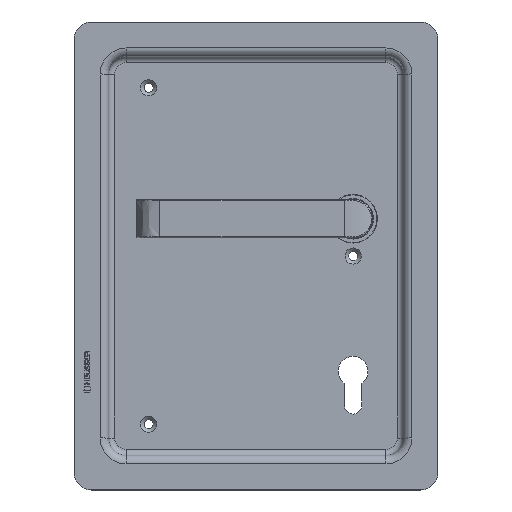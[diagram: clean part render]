
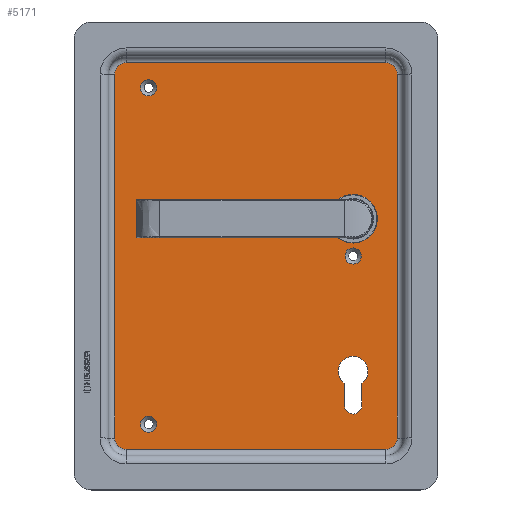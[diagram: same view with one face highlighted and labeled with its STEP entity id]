
A CAD part, top view. The second image highlights one B-rep face of the part: STEP entity #5171.
In plain terms, the highlighted planar face has unit normal (0, 0, 1).
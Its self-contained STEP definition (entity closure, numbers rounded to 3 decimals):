
#336=FACE_BOUND('',#721,.T.);
#337=FACE_BOUND('',#722,.T.);
#338=FACE_BOUND('',#723,.T.);
#339=FACE_BOUND('',#724,.T.);
#340=FACE_BOUND('',#725,.T.);
#414=FACE_OUTER_BOUND('',#720,.T.);
#720=EDGE_LOOP('',(#3284,#3285,#3286,#3287,#3288,#3289,#3290,#3291));
#721=EDGE_LOOP('',(#3292));
#722=EDGE_LOOP('',(#3293));
#723=EDGE_LOOP('',(#3294));
#724=EDGE_LOOP('',(#3295,#3296,#3297,#3298));
#725=EDGE_LOOP('',(#3299));
#1104=CIRCLE('',#5488,6.5);
#1105=CIRCLE('',#5489,6.5);
#1106=CIRCLE('',#5490,6.5);
#1107=CIRCLE('',#5491,6.5);
#1108=CIRCLE('',#5492,4.65);
#1109=CIRCLE('',#5493,4.65);
#1110=CIRCLE('',#5494,4.65);
#1111=CIRCLE('',#5495,8.6);
#1112=CIRCLE('',#5496,5.1);
#1113=CIRCLE('',#5497,14.);
#1280=LINE('',#7207,#1680);
#1281=LINE('',#7211,#1681);
#1282=LINE('',#7215,#1682);
#1283=LINE('',#7219,#1683);
#1284=LINE('',#7231,#1684);
#1285=LINE('',#7234,#1685);
#1680=VECTOR('',#5929,10.);
#1681=VECTOR('',#5932,10.);
#1682=VECTOR('',#5935,10.);
#1683=VECTOR('',#5938,10.);
#1684=VECTOR('',#5949,10.);
#1685=VECTOR('',#5952,10.);
#2080=VERTEX_POINT('',#7205);
#2081=VERTEX_POINT('',#7206);
#2082=VERTEX_POINT('',#7208);
#2083=VERTEX_POINT('',#7210);
#2084=VERTEX_POINT('',#7212);
#2085=VERTEX_POINT('',#7214);
#2086=VERTEX_POINT('',#7216);
#2087=VERTEX_POINT('',#7218);
#2088=VERTEX_POINT('',#7221);
#2089=VERTEX_POINT('',#7223);
#2090=VERTEX_POINT('',#7225);
#2091=VERTEX_POINT('',#7227);
#2092=VERTEX_POINT('',#7228);
#2093=VERTEX_POINT('',#7230);
#2094=VERTEX_POINT('',#7232);
#2095=VERTEX_POINT('',#7235);
#2560=EDGE_CURVE('',#2080,#2081,#1280,.T.);
#2561=EDGE_CURVE('',#2081,#2082,#1104,.T.);
#2562=EDGE_CURVE('',#2082,#2083,#1281,.T.);
#2563=EDGE_CURVE('',#2083,#2084,#1105,.T.);
#2564=EDGE_CURVE('',#2084,#2085,#1282,.T.);
#2565=EDGE_CURVE('',#2085,#2086,#1106,.T.);
#2566=EDGE_CURVE('',#2086,#2087,#1283,.T.);
#2567=EDGE_CURVE('',#2087,#2080,#1107,.T.);
#2568=EDGE_CURVE('',#2088,#2088,#1108,.T.);
#2569=EDGE_CURVE('',#2089,#2089,#1109,.T.);
#2570=EDGE_CURVE('',#2090,#2090,#1110,.T.);
#2571=EDGE_CURVE('',#2091,#2092,#1111,.T.);
#2572=EDGE_CURVE('',#2092,#2093,#1284,.T.);
#2573=EDGE_CURVE('',#2093,#2094,#1112,.T.);
#2574=EDGE_CURVE('',#2094,#2091,#1285,.T.);
#2575=EDGE_CURVE('',#2095,#2095,#1113,.T.);
#3284=ORIENTED_EDGE('',*,*,#2560,.T.);
#3285=ORIENTED_EDGE('',*,*,#2561,.T.);
#3286=ORIENTED_EDGE('',*,*,#2562,.T.);
#3287=ORIENTED_EDGE('',*,*,#2563,.T.);
#3288=ORIENTED_EDGE('',*,*,#2564,.T.);
#3289=ORIENTED_EDGE('',*,*,#2565,.T.);
#3290=ORIENTED_EDGE('',*,*,#2566,.T.);
#3291=ORIENTED_EDGE('',*,*,#2567,.T.);
#3292=ORIENTED_EDGE('',*,*,#2568,.F.);
#3293=ORIENTED_EDGE('',*,*,#2569,.F.);
#3294=ORIENTED_EDGE('',*,*,#2570,.F.);
#3295=ORIENTED_EDGE('',*,*,#2571,.T.);
#3296=ORIENTED_EDGE('',*,*,#2572,.T.);
#3297=ORIENTED_EDGE('',*,*,#2573,.T.);
#3298=ORIENTED_EDGE('',*,*,#2574,.T.);
#3299=ORIENTED_EDGE('',*,*,#2575,.T.);
#4732=PLANE('',#5487);
#5171=ADVANCED_FACE('',(#414,#336,#337,#338,#339,#340),#4732,.F.);
#5487=AXIS2_PLACEMENT_3D('',#7204,#5927,#5928);
#5488=AXIS2_PLACEMENT_3D('',#7209,#5930,#5931);
#5489=AXIS2_PLACEMENT_3D('',#7213,#5933,#5934);
#5490=AXIS2_PLACEMENT_3D('',#7217,#5936,#5937);
#5491=AXIS2_PLACEMENT_3D('',#7220,#5939,#5940);
#5492=AXIS2_PLACEMENT_3D('',#7222,#5941,#5942);
#5493=AXIS2_PLACEMENT_3D('',#7224,#5943,#5944);
#5494=AXIS2_PLACEMENT_3D('',#7226,#5945,#5946);
#5495=AXIS2_PLACEMENT_3D('',#7229,#5947,#5948);
#5496=AXIS2_PLACEMENT_3D('',#7233,#5950,#5951);
#5497=AXIS2_PLACEMENT_3D('',#7236,#5953,#5954);
#5927=DIRECTION('center_axis',(0.,0.,-1.));
#5928=DIRECTION('ref_axis',(-1.,0.,0.));
#5929=DIRECTION('',(1.,0.,0.));
#5930=DIRECTION('center_axis',(0.,0.,1.));
#5931=DIRECTION('ref_axis',(0.707,-0.707,0.));
#5932=DIRECTION('',(0.,1.,0.));
#5933=DIRECTION('center_axis',(0.,0.,1.));
#5934=DIRECTION('ref_axis',(0.707,0.707,0.));
#5935=DIRECTION('',(-1.,0.,0.));
#5936=DIRECTION('center_axis',(0.,0.,1.));
#5937=DIRECTION('ref_axis',(-0.707,0.707,0.));
#5938=DIRECTION('',(0.,-1.,0.));
#5939=DIRECTION('center_axis',(0.,0.,1.));
#5940=DIRECTION('ref_axis',(-0.707,-0.707,0.));
#5941=DIRECTION('center_axis',(0.,0.,1.));
#5942=DIRECTION('ref_axis',(-1.,0.,0.));
#5943=DIRECTION('center_axis',(0.,0.,1.));
#5944=DIRECTION('ref_axis',(-1.,0.,0.));
#5945=DIRECTION('center_axis',(0.,0.,1.));
#5946=DIRECTION('ref_axis',(-1.,0.,0.));
#5947=DIRECTION('center_axis',(0.,0.,-1.));
#5948=DIRECTION('ref_axis',(0.588,-0.809,0.));
#5949=DIRECTION('',(0.003,-1.,0.));
#5950=DIRECTION('center_axis',(0.,0.,-1.));
#5951=DIRECTION('ref_axis',(-1.,0.002,0.));
#5952=DIRECTION('',(0.002,1.,0.));
#5953=DIRECTION('center_axis',(0.,0.,
-1.));
#5954=DIRECTION('ref_axis',(1.,0.,0.));
#7204=CARTESIAN_POINT('Origin',(314.459,163.666,29.426));
#7205=CARTESIAN_POINT('',(239.459,52.166,29.426));
#7206=CARTESIAN_POINT('',(389.459,52.166,29.426));
#7207=CARTESIAN_POINT('',(276.959,52.166,29.426));
#7208=CARTESIAN_POINT('',(395.959,58.666,29.426));
#7209=CARTESIAN_POINT('Origin',(389.459,58.666,29.426));
#7210=CARTESIAN_POINT('',(395.959,268.666,29.426));
#7211=CARTESIAN_POINT('',(395.959,111.166,29.426));
#7212=CARTESIAN_POINT('',(389.459,275.166,29.426));
#7213=CARTESIAN_POINT('Origin',(389.459,268.666,29.426));
#7214=CARTESIAN_POINT('',(239.459,275.166,29.426));
#7215=CARTESIAN_POINT('',(351.959,275.166,29.426));
#7216=CARTESIAN_POINT('',(232.959,268.666,29.426));
#7217=CARTESIAN_POINT('Origin',(239.459,268.666,29.426));
#7218=CARTESIAN_POINT('',(232.959,58.666,29.426));
#7219=CARTESIAN_POINT('',(232.959,216.166,29.426));
#7220=CARTESIAN_POINT('Origin',(239.459,58.666,29.426));
#7221=CARTESIAN_POINT('',(257.109,260.666,29.426));
#7222=CARTESIAN_POINT('Origin',(252.459,260.666,29.426));
#7223=CARTESIAN_POINT('',(375.109,163.666,29.426));
#7224=CARTESIAN_POINT('Origin',(370.459,163.666,29.426));
#7225=CARTESIAN_POINT('',(257.109,66.666,29.426));
#7226=CARTESIAN_POINT('Origin',(252.459,66.666,29.426));
#7227=CARTESIAN_POINT('',(365.379,90.226,29.426));
#7228=CARTESIAN_POINT('',(375.516,90.21,29.426));
#7229=CARTESIAN_POINT('Origin',(370.459,97.166,29.426));
#7230=CARTESIAN_POINT('',(375.559,77.66,29.426));
#7231=CARTESIAN_POINT('',(375.391,127.041,29.426));
#7232=CARTESIAN_POINT('',(365.359,77.651,29.426));
#7233=CARTESIAN_POINT('Origin',(370.459,77.643,29.426));
#7234=CARTESIAN_POINT('',(365.427,120.618,29.426));
#7235=CARTESIAN_POINT('',(356.459,185.166,29.426));
#7236=CARTESIAN_POINT('Origin',(370.459,185.166,29.426));
